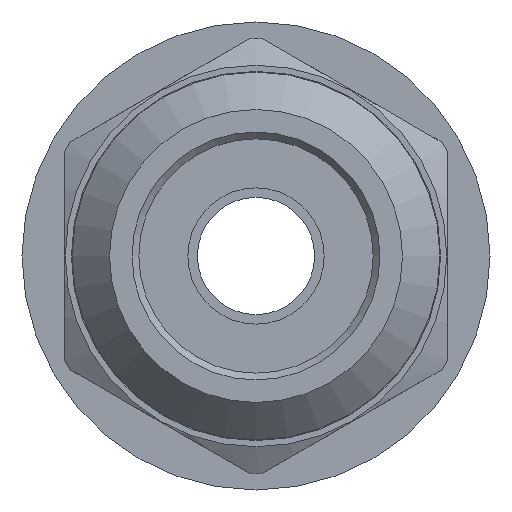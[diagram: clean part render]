
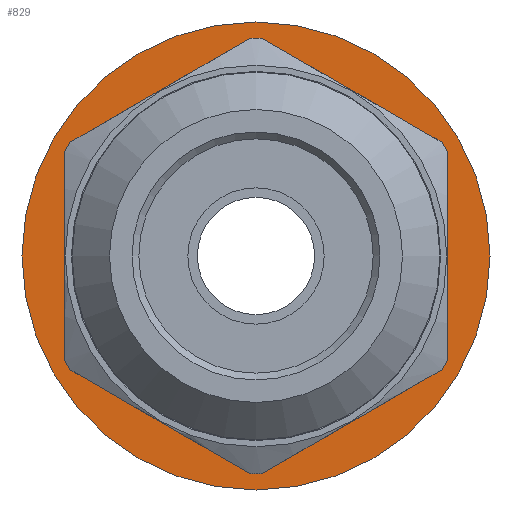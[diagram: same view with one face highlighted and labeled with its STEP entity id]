
A CAD part, front view. The second image highlights one B-rep face of the part: STEP entity #829.
In plain terms, the highlighted planar face has unit normal (0, -1, 0).
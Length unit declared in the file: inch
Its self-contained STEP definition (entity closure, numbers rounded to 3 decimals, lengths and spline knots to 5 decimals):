
#48=FACE_BOUND('',#164,.T.);
#61=PLANE('',#936);
#111=FACE_OUTER_BOUND('',#163,.T.);
#163=EDGE_LOOP('',(#643,#644));
#164=EDGE_LOOP('',(#645,#646));
#301=CIRCLE('',#937,0.3435);
#302=CIRCLE('',#938,0.3435);
#303=CIRCLE('',#939,0.164);
#304=CIRCLE('',#940,0.164);
#378=VERTEX_POINT('',#1400);
#379=VERTEX_POINT('',#1401);
#380=VERTEX_POINT('',#1404);
#381=VERTEX_POINT('',#1405);
#478=EDGE_CURVE('',#378,#379,#301,.T.);
#479=EDGE_CURVE('',#379,#378,#302,.T.);
#480=EDGE_CURVE('',#380,#381,#303,.T.);
#481=EDGE_CURVE('',#381,#380,#304,.T.);
#643=ORIENTED_EDGE('',*,*,#478,.T.);
#644=ORIENTED_EDGE('',*,*,#479,.T.);
#645=ORIENTED_EDGE('',*,*,#480,.F.);
#646=ORIENTED_EDGE('',*,*,#481,.F.);
#829=ADVANCED_FACE('',(#111,#48),#61,.T.);
#936=AXIS2_PLACEMENT_3D('',#1399,#1126,#1127);
#937=AXIS2_PLACEMENT_3D('',#1402,#1128,#1129);
#938=AXIS2_PLACEMENT_3D('',#1403,#1130,#1131);
#939=AXIS2_PLACEMENT_3D('',#1406,#1132,#1133);
#940=AXIS2_PLACEMENT_3D('',#1407,#1134,#1135);
#1126=DIRECTION('center_axis',(0.,-1.,0.));
#1127=DIRECTION('ref_axis',(0.,0.,-1.));
#1128=DIRECTION('center_axis',(0.,-1.,0.));
#1129=DIRECTION('ref_axis',(1.,0.,0.));
#1130=DIRECTION('center_axis',(0.,-1.,0.));
#1131=DIRECTION('ref_axis',(1.,0.,0.));
#1132=DIRECTION('center_axis',(0.,-1.,0.));
#1133=DIRECTION('ref_axis',(1.,0.,0.));
#1134=DIRECTION('center_axis',(0.,-1.,0.));
#1135=DIRECTION('ref_axis',(1.,0.,0.));
#1399=CARTESIAN_POINT('Origin',(0.,0.,-0.164));
#1400=CARTESIAN_POINT('',(0.,0.,-0.3435));
#1401=CARTESIAN_POINT('',(0.,0.,0.3435));
#1402=CARTESIAN_POINT('Origin',(0.,0.,0.));
#1403=CARTESIAN_POINT('Origin',(0.,0.,0.));
#1404=CARTESIAN_POINT('',(0.,0.,-0.164));
#1405=CARTESIAN_POINT('',(0.,0.,0.164));
#1406=CARTESIAN_POINT('Origin',(0.,0.,0.));
#1407=CARTESIAN_POINT('Origin',(0.,0.,0.));
